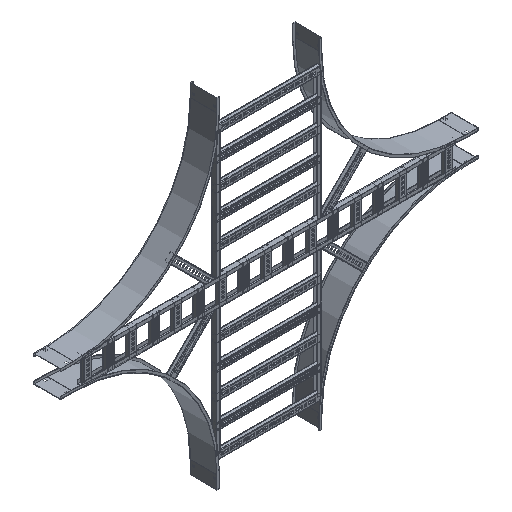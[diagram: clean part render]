
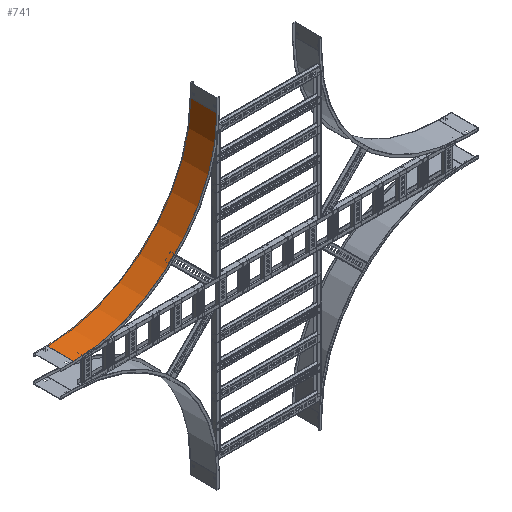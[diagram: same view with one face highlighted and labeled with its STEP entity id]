
A CAD part, isometric view. The second image highlights one B-rep face of the part: STEP entity #741.
In plain terms, the highlighted cylindrical face has radius 838.2 mm (diameter 1676.4 mm), a partial arc.
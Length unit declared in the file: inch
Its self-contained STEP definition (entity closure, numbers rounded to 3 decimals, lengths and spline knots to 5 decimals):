
#156=CARTESIAN_POINT('',(0.,-33.,3.));
#157=DIRECTION('',(1.,0.,0.));
#158=DIRECTION('',(0.,1.,0.));
#159=AXIS2_PLACEMENT_3D('',#156,#157,#158);
#165=DIRECTION('',(1.,0.,0.));
#166=VECTOR('',#165,6.19);
#167=CARTESIAN_POINT('',(-6.19,0.,3.));
#168=LINE('',#167,#166);
#169=CARTESIAN_POINT('',(-6.19,-33.,3.));
#170=DIRECTION('',(1.,0.,0.));
#171=DIRECTION('',(0.,1.,0.));
#172=AXIS2_PLACEMENT_3D('',#169,#170,#171);
#174=DIRECTION('',(1.,0.,0.));
#175=VECTOR('',#174,6.19);
#176=CARTESIAN_POINT('',(-6.19,-33.,36.));
#177=LINE('',#176,#175);
#409=CARTESIAN_POINT('',(-6.19,0.,3.));
#410=CARTESIAN_POINT('',(0.,0.,3.));
#411=VERTEX_POINT('',#409);
#412=VERTEX_POINT('',#410);
#425=CARTESIAN_POINT('',(-6.19,-33.,36.));
#426=CARTESIAN_POINT('',(0.,-33.,36.));
#427=VERTEX_POINT('',#425);
#428=VERTEX_POINT('',#426);
#729=CARTESIAN_POINT('',(-1.,-33.,3.));
#730=DIRECTION('',(1.,0.,0.));
#731=DIRECTION('',(0.,-1.,0.));
#732=AXIS2_PLACEMENT_3D('',#729,#730,#731);
#733=CYLINDRICAL_SURFACE('',#732,33.);
#734=ORIENTED_EDGE('',*,*,#553,.F.);
#735=ORIENTED_EDGE('',*,*,#596,.T.);
#737=ORIENTED_EDGE('',*,*,#736,.T.);
#738=ORIENTED_EDGE('',*,*,#715,.F.);
#739=EDGE_LOOP('',(#734,#735,#737,#738));
#740=FACE_OUTER_BOUND('',#739,.F.);
#741=ADVANCED_FACE('',(#740),#733,.F.);
#160=CIRCLE('',#159,33.);
#173=CIRCLE('',#172,33.);
#553=EDGE_CURVE('',#411,#412,#168,.T.);
#596=EDGE_CURVE('',#411,#427,#173,.T.);
#715=EDGE_CURVE('',#412,#428,#160,.T.);
#736=EDGE_CURVE('',#427,#428,#177,.T.);
